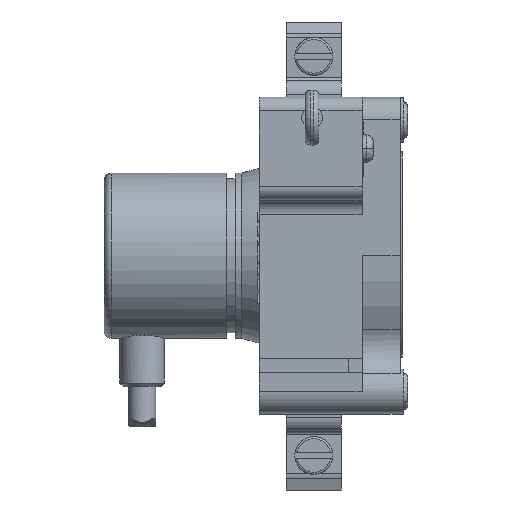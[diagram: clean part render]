
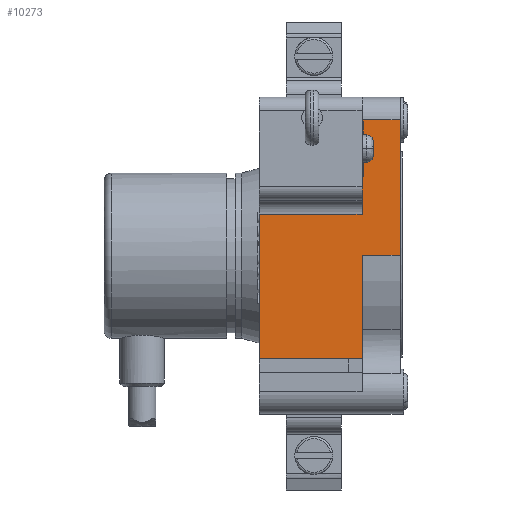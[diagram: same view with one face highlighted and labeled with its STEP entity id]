
A CAD part, top view. The second image highlights one B-rep face of the part: STEP entity #10273.
In plain terms, the highlighted planar face has unit normal (0, 0, 1).
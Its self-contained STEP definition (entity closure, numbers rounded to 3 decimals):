
#266=DIRECTION('',(0.,-1.,0.));
#267=VECTOR('',#266,20.999);
#268=CARTESIAN_POINT('',(-36.2,6.,23.));
#269=LINE('',#268,#267);
#934=DIRECTION('',(0.,1.,0.));
#935=VECTOR('',#934,19.75);
#936=CARTESIAN_POINT('',(-15.7,0.,23.));
#937=LINE('',#936,#935);
#1206=DIRECTION('',(0.,1.,0.));
#1207=VECTOR('',#1206,14.997);
#1208=CARTESIAN_POINT('',(-21.2,-14.997,23.));
#1209=LINE('',#1208,#1207);
#1224=DIRECTION('',(-1.,0.,0.));
#1225=VECTOR('',#1224,15.);
#1226=CARTESIAN_POINT('',(-21.2,-14.997,23.));
#1227=LINE('',#1226,#1225);
#1228=DIRECTION('',(-1.,0.,0.));
#1229=VECTOR('',#1228,2.);
#1230=CARTESIAN_POINT('',(-21.2,6.,23.));
#1231=LINE('',#1230,#1229);
#1232=DIRECTION('',(-1.,0.,0.));
#1233=VECTOR('',#1232,13.);
#1234=CARTESIAN_POINT('',(-23.2,6.,23.));
#1235=LINE('',#1234,#1233);
#2722=DIRECTION('',(-1.,0.,0.));
#2723=VECTOR('',#2722,5.5);
#2724=CARTESIAN_POINT('',(-15.7,19.75,23.));
#2725=LINE('',#2724,#2723);
#2730=DIRECTION('',(0.,-1.,0.));
#2731=VECTOR('',#2730,13.75);
#2732=CARTESIAN_POINT('',(-21.2,19.75,23.));
#2733=LINE('',#2732,#2731);
#5350=DIRECTION('',(1.,0.,0.));
#5351=VECTOR('',#5350,5.5);
#5352=CARTESIAN_POINT('',(-21.2,0.,23.));
#5353=LINE('',#5352,#5351);
#7885=CARTESIAN_POINT('',(-21.2,-14.997,23.));
#7887=VERTEX_POINT('',#7885);
#7888=CARTESIAN_POINT('',(-21.2,0.,23.));
#7889=VERTEX_POINT('',#7888);
#7890=CARTESIAN_POINT('',(-21.2,19.75,23.));
#7891=CARTESIAN_POINT('',(-21.2,6.,23.));
#7892=VERTEX_POINT('',#7890);
#7893=VERTEX_POINT('',#7891);
#7894=CARTESIAN_POINT('',(-15.7,19.75,23.));
#7895=VERTEX_POINT('',#7894);
#7896=CARTESIAN_POINT('',(-15.7,0.,23.));
#7897=VERTEX_POINT('',#7896);
#8720=CARTESIAN_POINT('',(-23.2,6.,23.));
#8721=CARTESIAN_POINT('',(-36.2,6.,23.));
#8722=VERTEX_POINT('',#8720);
#8723=VERTEX_POINT('',#8721);
#8802=CARTESIAN_POINT('',(-36.2,-14.999,23.));
#8803=VERTEX_POINT('',#8802);
#10252=CARTESIAN_POINT('',(-23.2,-23.,23.));
#10253=DIRECTION('',(0.,0.,1.));
#10254=DIRECTION('',(0.,1.,0.));
#10255=AXIS2_PLACEMENT_3D('',#10252,#10253,#10254);
#10256=PLANE('',#10255);
#10257=ORIENTED_EDGE('',*,*,#9863,.T.);
#10258=ORIENTED_EDGE('',*,*,#9606,.F.);
#10260=ORIENTED_EDGE('',*,*,#10259,.F.);
#10262=ORIENTED_EDGE('',*,*,#10261,.F.);
#10264=ORIENTED_EDGE('',*,*,#10263,.F.);
#10266=ORIENTED_EDGE('',*,*,#10265,.F.);
#10267=ORIENTED_EDGE('',*,*,#10120,.F.);
#10269=ORIENTED_EDGE('',*,*,#10268,.F.);
#10270=ORIENTED_EDGE('',*,*,#10243,.F.);
#10271=EDGE_LOOP('',(#10257,#10258,#10260,#10262,#10264,#10266,#10267,#10269,
#10270));
#10272=FACE_OUTER_BOUND('',#10271,.F.);
#10273=ADVANCED_FACE('',(#10272),#10256,.T.);
#9606=EDGE_CURVE('',#8723,#8803,#269,.T.);
#9863=EDGE_CURVE('',#7887,#8803,#1227,.T.);
#10120=EDGE_CURVE('',#7897,#7895,#937,.T.);
#10243=EDGE_CURVE('',#7887,#7889,#1209,.T.);
#10259=EDGE_CURVE('',#8722,#8723,#1235,.T.);
#10261=EDGE_CURVE('',#7893,#8722,#1231,.T.);
#10263=EDGE_CURVE('',#7892,#7893,#2733,.T.);
#10265=EDGE_CURVE('',#7895,#7892,#2725,.T.);
#10268=EDGE_CURVE('',#7889,#7897,#5353,.T.);
